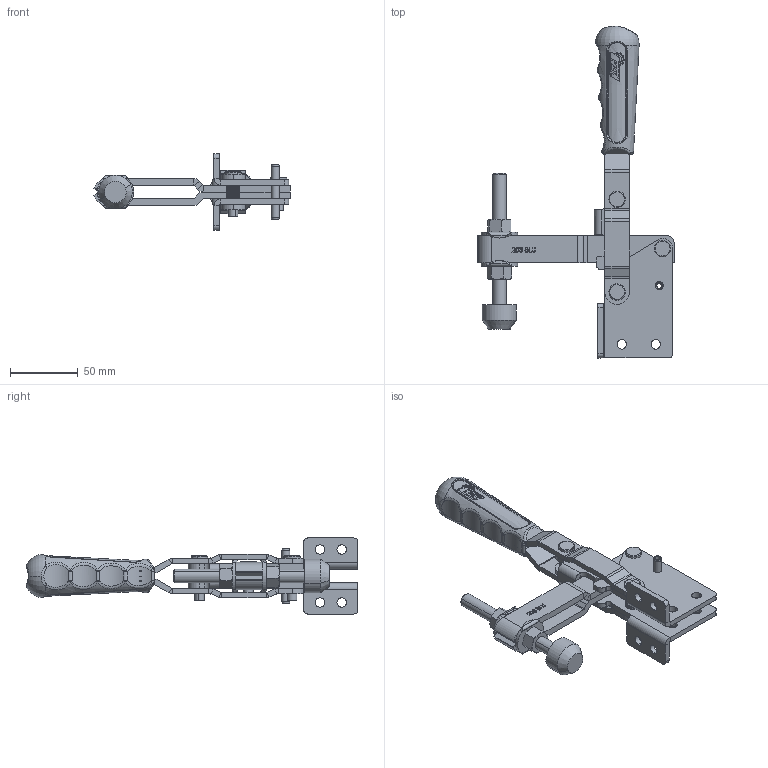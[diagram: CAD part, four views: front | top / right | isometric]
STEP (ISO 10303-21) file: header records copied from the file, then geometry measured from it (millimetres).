
FILE_DESCRIPTION (( 'STEP AP214' ), '1' );
FILE_NAME ('203_YU.STEP', '2024-09-09T16:31:22', ( '' ), ( '' ), 'SwSTEP 2.0', 'SolidWorks 2023', '' );
FILE_SCHEMA (( 'AUTOMOTIVE_DESIGN' ));
Length unit declared in the file: millimetre
Products named in the file (17): FZK_203_Y_01_00; FZK_203_BU_01_00; M10 A.K. SOMUN ; M10 PUL DIN 125; M10 PABUÇ; FZK_203_B_03_00; FZK_203_B_04_00; FZK_203_B_05_00; FZK_203_B_06_00; FZK_203_BU_02_00; 203_YU; M10x100 A.K.B; FZK_203_Y_02_00; FZK_203_B_07_00; Ø6x40 YARIKLI PİM; TTMK_03_00; FZK_203_B_03A_00
Assembly tree (22 placements, depth 3):
  203_YU
    FZK_203_BU_02_00
    FZK_203_B_03_00
      FZK_203_B_03A_00  x2
    FZK_203_B_06_00  x2
    FZK_203_Y_02_00
    TTMK_03_00
    FZK_203_B_07_00  x2
    FZK_203_BU_01_00
    FZK_203_B_05_00
    FZK_203_Y_01_00
    FZK_203_B_04_00  x2
    M10 PUL DIN 125  x2
    M10x100 A.K.B
    M10 A.K. SOMUN   x2
    Ø6x40 YARIKLI PİM
    M10 PABUÇ
Bounding box: 144.57 x 244.61 x 56.01 mm (x, y, z)
Volume: 171212.2 mm3; surface area: 91813.7 mm2
Topology: 21 solids, 21 shells, 1504 faces, 3984 edges, 2538 vertices
Faces by surface type: cylinder 844, plane 282, bspline 266, cone 86, sphere 20, torus 6
Entity records: 53091 total; most frequent: CARTESIAN_POINT 29794, ORIENTED_EDGE 5496, DIRECTION 3483, EDGE_CURVE 2748, VERTEX_POINT 1756, B_SPLINE_CURVE_WITH_KNOTS 1342, AXIS2_PLACEMENT_3D 1278, EDGE_LOOP 1136
